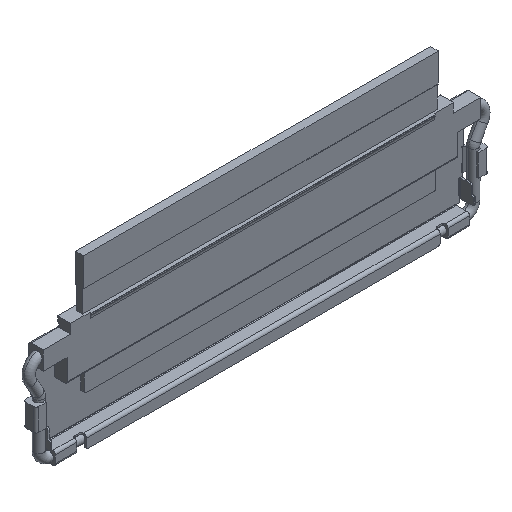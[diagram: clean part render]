
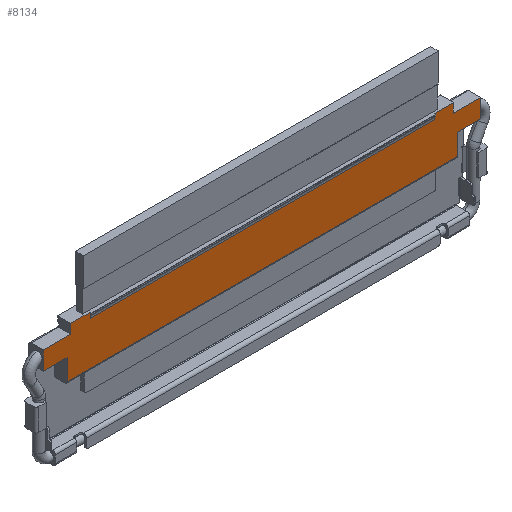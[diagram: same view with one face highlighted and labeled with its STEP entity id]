
A CAD part, isometric view. The second image highlights one B-rep face of the part: STEP entity #8134.
In plain terms, the highlighted planar face has unit normal (0, -1, 0).
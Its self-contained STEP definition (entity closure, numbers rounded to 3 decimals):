
#347 = CARTESIAN_POINT ( 'NONE',  ( -7.99, 0., 2.95 ) ) ;
#378 = CARTESIAN_POINT ( 'NONE',  ( -9.33, 0., 0.13 ) ) ;
#454 = EDGE_CURVE ( 'NONE', #5351, #6588, #18448, .T. ) ;
#514 = VERTEX_POINT ( 'NONE', #12773 ) ;
#921 = CARTESIAN_POINT ( 'NONE',  ( -10.4, 0., 2.19 ) ) ;
#1063 = VECTOR ( 'NONE', #18659, 1000. ) ;
#1088 = EDGE_CURVE ( 'NONE', #7014, #5947, #4139, .T. ) ;
#1177 = CARTESIAN_POINT ( 'NONE',  ( -9.33, 0., 1.34 ) ) ;
#1635 = LINE ( 'NONE', #13880, #6917 ) ;
#1641 = AXIS2_PLACEMENT_3D ( 'NONE', #921, #9831, #5278 ) ;
#2171 = EDGE_CURVE ( 'NONE', #18828, #15420, #11532, .T. ) ;
#2223 = EDGE_CURVE ( 'NONE', #514, #17394, #11724, .T. ) ;
#2491 = DIRECTION ( 'NONE',  ( 1., 0., 0. ) ) ;
#2658 = VECTOR ( 'NONE', #16367, 1000. ) ;
#2716 = ORIENTED_EDGE ( 'NONE', *, *, #2223, .F. ) ;
#2794 = VERTEX_POINT ( 'NONE', #2987 ) ;
#2987 = CARTESIAN_POINT ( 'NONE',  ( 13.33, 0., 1.34 ) ) ;
#3062 = VERTEX_POINT ( 'NONE', #17952 ) ;
#3205 = LINE ( 'NONE', #15440, #6947 ) ;
#3356 = VECTOR ( 'NONE', #3596, 1000. ) ;
#3500 = LINE ( 'NONE', #5321, #4459 ) ;
#3596 = DIRECTION ( 'NONE',  ( 0., 0., -1. ) ) ;
#3657 = PLANE ( 'NONE',  #1641 ) ;
#3822 = EDGE_CURVE ( 'NONE', #19571, #514, #8971, .T. ) ;
#3844 = DIRECTION ( 'NONE',  ( 1., 0., 0. ) ) ;
#3896 = VERTEX_POINT ( 'NONE', #4416 ) ;
#3931 = CARTESIAN_POINT ( 'NONE',  ( 11.99, 0., 2.65 ) ) ;
#4004 = CARTESIAN_POINT ( 'NONE',  ( 11.63, 0., 2.41 ) ) ;
#4139 = LINE ( 'NONE', #18200, #7934 ) ;
#4416 = CARTESIAN_POINT ( 'NONE',  ( -9.11, 0., 2.95 ) ) ;
#4459 = VECTOR ( 'NONE', #6637, 1000. ) ;
#4525 = ORIENTED_EDGE ( 'NONE', *, *, #1088, .F. ) ;
#4749 = CARTESIAN_POINT ( 'NONE',  ( 14.7, 0., 1.34 ) ) ;
#4850 = VERTEX_POINT ( 'NONE', #1177 ) ;
#5033 = ORIENTED_EDGE ( 'NONE', *, *, #9891, .F. ) ;
#5072 = EDGE_CURVE ( 'NONE', #5947, #12763, #3500, .T. ) ;
#5278 = DIRECTION ( 'NONE',  ( 0., 0., 1. ) ) ;
#5321 = CARTESIAN_POINT ( 'NONE',  ( 13.11, 0., 2.65 ) ) ;
#5351 = VERTEX_POINT ( 'NONE', #5910 ) ;
#5367 = CARTESIAN_POINT ( 'NONE',  ( -7.99, 0., 2.65 ) ) ;
#5405 = VECTOR ( 'NONE', #6180, 1000. ) ;
#5460 = CARTESIAN_POINT ( 'NONE',  ( 11.99, 0., 2.65 ) ) ;
#5907 = LINE ( 'NONE', #7522, #1063 ) ;
#5910 = CARTESIAN_POINT ( 'NONE',  ( -10.7, 0., 2.41 ) ) ;
#5947 = VERTEX_POINT ( 'NONE', #19315 ) ;
#6026 = VECTOR ( 'NONE', #3844, 1000. ) ;
#6180 = DIRECTION ( 'NONE',  ( 0., 0., -1. ) ) ;
#6588 = VERTEX_POINT ( 'NONE', #9147 ) ;
#6637 = DIRECTION ( 'NONE',  ( 0., 0., -1. ) ) ;
#6684 = VECTOR ( 'NONE', #7475, 1000. ) ;
#6917 = VECTOR ( 'NONE', #13475, 1000. ) ;
#6947 = VECTOR ( 'NONE', #18484, 1000. ) ;
#6977 = DIRECTION ( 'NONE',  ( 1., 0., 0. ) ) ;
#7014 = VERTEX_POINT ( 'NONE', #16819 ) ;
#7266 = CARTESIAN_POINT ( 'NONE',  ( 14.7, 0., 2.19 ) ) ;
#7341 = ORIENTED_EDGE ( 'NONE', *, *, #3822, .F. ) ;
#7416 = ORIENTED_EDGE ( 'NONE', *, *, #9755, .T. ) ;
#7475 = DIRECTION ( 'NONE',  ( 1., 0., 0. ) ) ;
#7522 = CARTESIAN_POINT ( 'NONE',  ( 11.63, 0., 1.34 ) ) ;
#7566 = VERTEX_POINT ( 'NONE', #4749 ) ;
#7854 = CARTESIAN_POINT ( 'NONE',  ( -7.63, 0., 1.34 ) ) ;
#7934 = VECTOR ( 'NONE', #6977, 1000. ) ;
#7953 = LINE ( 'NONE', #7854, #10851 ) ;
#7979 = ORIENTED_EDGE ( 'NONE', *, *, #13908, .T. ) ;
#8134 = ADVANCED_FACE ( 'NONE', ( #14771 ), #3657, .F. ) ;
#8461 = ORIENTED_EDGE ( 'NONE', *, *, #18399, .T. ) ;
#8463 = CARTESIAN_POINT ( 'NONE',  ( 13.33, 0., 0.13 ) ) ;
#8658 = ORIENTED_EDGE ( 'NONE', *, *, #454, .T. ) ;
#8971 = LINE ( 'NONE', #5367, #15124 ) ;
#9147 = CARTESIAN_POINT ( 'NONE',  ( -10.7, 0., 1.34 ) ) ;
#9755 = EDGE_CURVE ( 'NONE', #7014, #17394, #19325, .T. ) ;
#9828 = ORIENTED_EDGE ( 'NONE', *, *, #13211, .T. ) ;
#9831 = DIRECTION ( 'NONE',  ( 0., 1., 0. ) ) ;
#9891 = EDGE_CURVE ( 'NONE', #19768, #7566, #12122, .T. ) ;
#9899 = DIRECTION ( 'NONE',  ( -1., 0., 0. ) ) ;
#10192 = LINE ( 'NONE', #13032, #19538 ) ;
#10253 = EDGE_CURVE ( 'NONE', #12763, #19768, #19493, .T. ) ;
#10496 = VECTOR ( 'NONE', #19972, 1000. ) ;
#10835 = CARTESIAN_POINT ( 'NONE',  ( -9.33, 0., 2.28 ) ) ;
#10851 = VECTOR ( 'NONE', #12814, 1000. ) ;
#11390 = CARTESIAN_POINT ( 'NONE',  ( 13.33, 0., 2.28 ) ) ;
#11532 = LINE ( 'NONE', #17710, #6026 ) ;
#11696 = EDGE_CURVE ( 'NONE', #2794, #15420, #17655, .T. ) ;
#11724 = LINE ( 'NONE', #11936, #6684 ) ;
#11936 = CARTESIAN_POINT ( 'NONE',  ( -7.99, 0., 2.65 ) ) ;
#12122 = LINE ( 'NONE', #7266, #19465 ) ;
#12763 = VERTEX_POINT ( 'NONE', #16929 ) ;
#12773 = CARTESIAN_POINT ( 'NONE',  ( -7.99, 0., 2.65 ) ) ;
#12794 = EDGE_CURVE ( 'NONE', #2794, #7566, #5907, .T. ) ;
#12814 = DIRECTION ( 'NONE',  ( -1., 0., 0. ) ) ;
#12915 = ORIENTED_EDGE ( 'NONE', *, *, #2171, .T. ) ;
#13032 = CARTESIAN_POINT ( 'NONE',  ( 1.017, 0., 2.95 ) ) ;
#13073 = ORIENTED_EDGE ( 'NONE', *, *, #11696, .F. ) ;
#13211 = EDGE_CURVE ( 'NONE', #3896, #3062, #1635, .T. ) ;
#13475 = DIRECTION ( 'NONE',  ( 0., 0., -1. ) ) ;
#13872 = LINE ( 'NONE', #10835, #5405 ) ;
#13880 = CARTESIAN_POINT ( 'NONE',  ( -9.11, 0., 2.65 ) ) ;
#13908 = EDGE_CURVE ( 'NONE', #19571, #3896, #10192, .T. ) ;
#14086 = EDGE_CURVE ( 'NONE', #3062, #5351, #3205, .T. ) ;
#14771 = FACE_OUTER_BOUND ( 'NONE', #15384, .T. ) ;
#15078 = CARTESIAN_POINT ( 'NONE',  ( 14.7, 0., 2.41 ) ) ;
#15124 = VECTOR ( 'NONE', #17979, 1000. ) ;
#15312 = EDGE_CURVE ( 'NONE', #4850, #6588, #7953, .T. ) ;
#15384 = EDGE_LOOP ( 'NONE', ( #2716, #7341, #7979, #9828, #17984, #8658, #18755, #8461, #12915, #13073, #17577, #5033, #16961, #17838, #4525, #7416 ) ) ;
#15420 = VERTEX_POINT ( 'NONE', #8463 ) ;
#15440 = CARTESIAN_POINT ( 'NONE',  ( -7.63, 0., 2.41 ) ) ;
#16367 = DIRECTION ( 'NONE',  ( 0., 0., -1. ) ) ;
#16477 = DIRECTION ( 'NONE',  ( 0., 0., -1. ) ) ;
#16819 = CARTESIAN_POINT ( 'NONE',  ( 11.99, 0., 2.95 ) ) ;
#16929 = CARTESIAN_POINT ( 'NONE',  ( 13.11, 0., 2.41 ) ) ;
#16961 = ORIENTED_EDGE ( 'NONE', *, *, #10253, .F. ) ;
#17222 = CARTESIAN_POINT ( 'NONE',  ( -10.7, 0., 2.19 ) ) ;
#17394 = VERTEX_POINT ( 'NONE', #3931 ) ;
#17577 = ORIENTED_EDGE ( 'NONE', *, *, #12794, .T. ) ;
#17655 = LINE ( 'NONE', #11390, #3356 ) ;
#17710 = CARTESIAN_POINT ( 'NONE',  ( 9.33, 0., 0.13 ) ) ;
#17838 = ORIENTED_EDGE ( 'NONE', *, *, #5072, .F. ) ;
#17952 = CARTESIAN_POINT ( 'NONE',  ( -9.11, 0., 2.41 ) ) ;
#17979 = DIRECTION ( 'NONE',  ( 0., 0., -1. ) ) ;
#17984 = ORIENTED_EDGE ( 'NONE', *, *, #14086, .T. ) ;
#18200 = CARTESIAN_POINT ( 'NONE',  ( 2.983, 0., 2.95 ) ) ;
#18399 = EDGE_CURVE ( 'NONE', #4850, #18828, #13872, .T. ) ;
#18448 = LINE ( 'NONE', #17222, #10496 ) ;
#18484 = DIRECTION ( 'NONE',  ( -1., 0., 0. ) ) ;
#18659 = DIRECTION ( 'NONE',  ( 1., 0., 0. ) ) ;
#18755 = ORIENTED_EDGE ( 'NONE', *, *, #15312, .F. ) ;
#18828 = VERTEX_POINT ( 'NONE', #378 ) ;
#19315 = CARTESIAN_POINT ( 'NONE',  ( 13.11, 0., 2.95 ) ) ;
#19325 = LINE ( 'NONE', #5460, #2658 ) ;
#19465 = VECTOR ( 'NONE', #16477, 1000. ) ;
#19479 = VECTOR ( 'NONE', #2491, 1000. ) ;
#19493 = LINE ( 'NONE', #4004, #19479 ) ;
#19538 = VECTOR ( 'NONE', #9899, 1000. ) ;
#19571 = VERTEX_POINT ( 'NONE', #347 ) ;
#19768 = VERTEX_POINT ( 'NONE', #15078 ) ;
#19972 = DIRECTION ( 'NONE',  ( 0., 0., -1. ) ) ;
